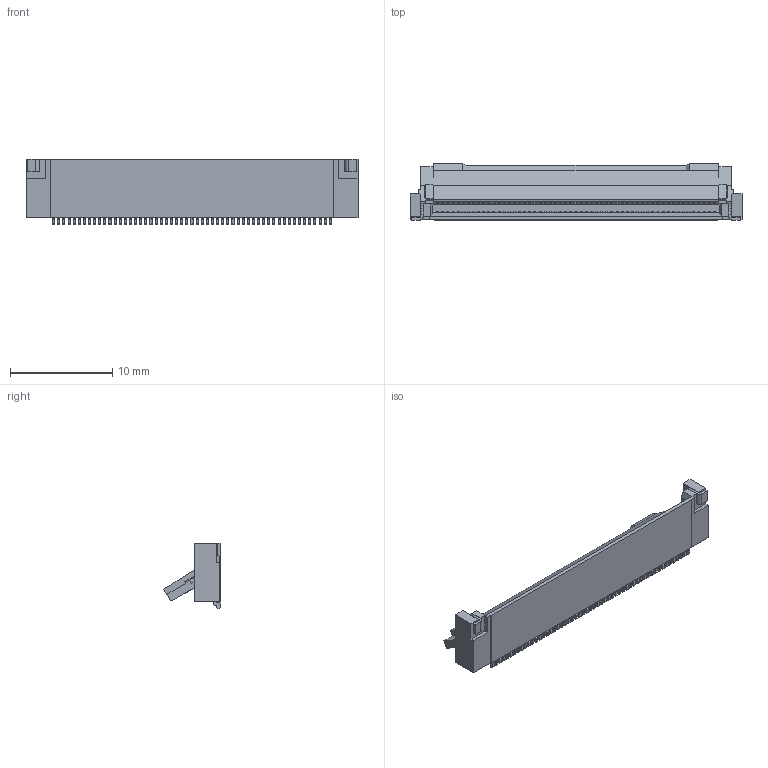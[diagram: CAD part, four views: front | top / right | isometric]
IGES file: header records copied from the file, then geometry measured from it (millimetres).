
Start section: SolidWorks IGES file using analytic representation for surfaces
Global section: file name: C:\3dworks\金子\MINIFLEX5-FF\STEP再作成\close 最終\IGES\20647-055E-01 ASS'Y ACT OPEN IGES R2 ALL.IGS; native system: SolidWorks 2014; preprocessor: SolidWorks 2014; author: ieng2-003; date: 161003.235325; units: millimetre
Bounding box: 32.4 x 5.51 x 6.4 mm (x, y, z)
Surface area: 874.8 mm2 (no closed solid volume)
Topology: 0 solids, 0 shells, 1910 faces, 12624 edges, 12624 vertices
Faces by surface type: bspline 1128, revolution 782
